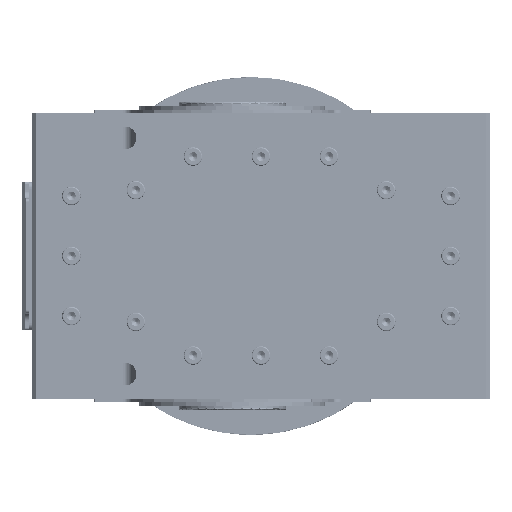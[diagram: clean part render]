
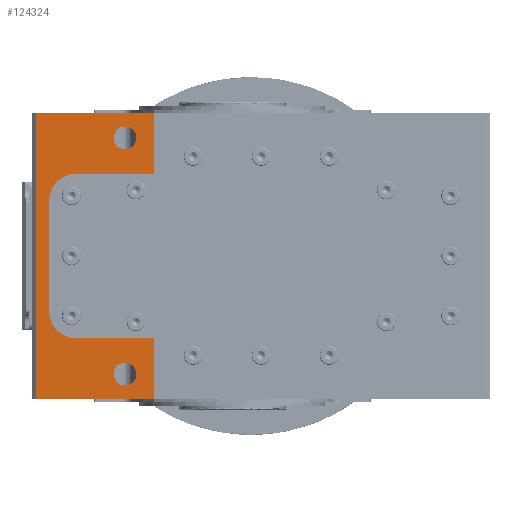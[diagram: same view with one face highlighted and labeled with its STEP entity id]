
A CAD part, left-side view. The second image highlights one B-rep face of the part: STEP entity #124324.
In plain terms, the highlighted planar face has unit normal (-1, 0, 0).
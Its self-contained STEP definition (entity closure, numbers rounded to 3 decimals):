
#11727 = VECTOR ( 'NONE', #189718, 1000. ) ;
#11729 = LINE ( 'NONE', #189930, #11790 ) ;
#11771 = VECTOR ( 'NONE', #189879, 1000. ) ;
#11790 = VECTOR ( 'NONE', #189912, 1000. ) ;
#11802 = LINE ( 'NONE', #189734, #11727 ) ;
#11807 = LINE ( 'NONE', #189955, #11771 ) ;
#26405 = CARTESIAN_POINT ( 'NONE',  ( -112., 109., 38.5 ) ) ;
#26416 = DIRECTION ( 'NONE',  ( 0., 0., 1. ) ) ;
#26437 = DIRECTION ( 'NONE',  ( 1., 0., 0. ) ) ;
#26467 = DIRECTION ( 'NONE',  ( 1., 0., 0. ) ) ;
#26478 = DIRECTION ( 'NONE',  ( 0., 0., 1. ) ) ;
#26482 = CARTESIAN_POINT ( 'NONE',  ( -112., 109., -38.5 ) ) ;
#26508 = CARTESIAN_POINT ( 'NONE',  ( -112., 75., -82.5 ) ) ;
#26509 = DIRECTION ( 'NONE',  ( 1., 0., 0. ) ) ;
#26510 = DIRECTION ( 'NONE',  ( 0., 0., 1. ) ) ;
#26545 = CARTESIAN_POINT ( 'NONE',  ( -112., 140., 57.5 ) ) ;
#26552 = DIRECTION ( 'NONE',  ( 0., -1., 0. ) ) ;
#26645 = DIRECTION ( 'NONE',  ( 0., 0., 1. ) ) ;
#26655 = CARTESIAN_POINT ( 'NONE',  ( -112., 75., 82.5 ) ) ;
#26656 = DIRECTION ( 'NONE',  ( 1., 0., 0. ) ) ;
#26690 = CARTESIAN_POINT ( 'NONE',  ( -112., 128., -100. ) ) ;
#26706 = DIRECTION ( 'NONE',  ( 0., 0., 1. ) ) ;
#26795 = DIRECTION ( 'NONE',  ( 0., 1., 0. ) ) ;
#26817 = CARTESIAN_POINT ( 'NONE',  ( -112., 140., -57.5 ) ) ;
#26824 = DIRECTION ( 'NONE',  ( 0., 0., 1. ) ) ;
#26842 = CARTESIAN_POINT ( 'NONE',  ( -112., 55., -100. ) ) ;
#35977 = LINE ( 'NONE', #26842, #35992 ) ;
#35983 = LINE ( 'NONE', #26690, #36018 ) ;
#35992 = VECTOR ( 'NONE', #26824, 1000. ) ;
#36018 = VECTOR ( 'NONE', #26706, 1000. ) ;
#36064 = LINE ( 'NONE', #26817, #36264 ) ;
#36075 = CIRCLE ( 'NONE', #91976, 8. ) ;
#36264 = VECTOR ( 'NONE', #26795, 1000. ) ;
#36290 = LINE ( 'NONE', #148413, #36306 ) ;
#36306 = VECTOR ( 'NONE', #148451, 1000. ) ;
#38011 = DIRECTION ( 'NONE',  ( 0., 0., 1. ) ) ;
#38048 = CARTESIAN_POINT ( 'NONE',  ( -112., 140., -100. ) ) ;
#38075 = PLANE ( 'NONE',  #94760 ) ;
#38108 = DIRECTION ( 'NONE',  ( -1., 0., 0. ) ) ;
#39618 = CIRCLE ( 'NONE', #91641, 19. ) ;
#39722 = LINE ( 'NONE', #26545, #39726 ) ;
#39726 = VECTOR ( 'NONE', #26552, 1000. ) ;
#39811 = CIRCLE ( 'NONE', #92055, 8. ) ;
#39868 = CIRCLE ( 'NONE', #91984, 19. ) ;
#48570 = ORIENTED_EDGE ( 'NONE', *, *, #120015, .T. ) ;
#48574 = ORIENTED_EDGE ( 'NONE', *, *, #120031, .T. ) ;
#48598 = ORIENTED_EDGE ( 'NONE', *, *, #119810, .T. ) ;
#48636 = ORIENTED_EDGE ( 'NONE', *, *, #119745, .T. ) ;
#48650 = ORIENTED_EDGE ( 'NONE', *, *, #119714, .T. ) ;
#48654 = ORIENTED_EDGE ( 'NONE', *, *, #116756, .T. ) ;
#48660 = ORIENTED_EDGE ( 'NONE', *, *, #119938, .T. ) ;
#48662 = ORIENTED_EDGE ( 'NONE', *, *, #198130, .T. ) ;
#48668 = ORIENTED_EDGE ( 'NONE', *, *, #116758, .T. ) ;
#76523 = VERTEX_POINT ( 'NONE', #193259 ) ;
#76545 = VERTEX_POINT ( 'NONE', #193307 ) ;
#91641 = AXIS2_PLACEMENT_3D ( 'NONE', #26405, #26437, #26416 ) ;
#91976 = AXIS2_PLACEMENT_3D ( 'NONE', #26655, #26656, #26645 ) ;
#91984 = AXIS2_PLACEMENT_3D ( 'NONE', #26482, #26467, #26478 ) ;
#92055 = AXIS2_PLACEMENT_3D ( 'NONE', #26508, #26509, #26510 ) ;
#94760 = AXIS2_PLACEMENT_3D ( 'NONE', #38048, #38108, #38011 ) ;
#99225 = VERTEX_POINT ( 'NONE', #218763 ) ;
#99236 = VERTEX_POINT ( 'NONE', #218830 ) ;
#99253 = VERTEX_POINT ( 'NONE', #218878 ) ;
#99270 = VERTEX_POINT ( 'NONE', #218743 ) ;
#99293 = VERTEX_POINT ( 'NONE', #219086 ) ;
#99320 = VERTEX_POINT ( 'NONE', #219058 ) ;
#99333 = VERTEX_POINT ( 'NONE', #218935 ) ;
#99338 = VERTEX_POINT ( 'NONE', #219127 ) ;
#99372 = VERTEX_POINT ( 'NONE', #219079 ) ;
#99376 = VERTEX_POINT ( 'NONE', #219009 ) ;
#99382 = VERTEX_POINT ( 'NONE', #219310 ) ;
#99390 = VERTEX_POINT ( 'NONE', #219229 ) ;
#116756 = EDGE_CURVE ( 'NONE', #76523, #99270, #11802, .T. ) ;
#116758 = EDGE_CURVE ( 'NONE', #99236, #76545, #11729, .T. ) ;
#116763 = EDGE_CURVE ( 'NONE', #76545, #76523, #11807, .T. ) ;
#119714 = EDGE_CURVE ( 'NONE', #99225, #99338, #39618, .T. ) ;
#119745 = EDGE_CURVE ( 'NONE', #99293, #99333, #39868, .T. ) ;
#119810 = EDGE_CURVE ( 'NONE', #99376, #99382, #39811, .T. ) ;
#119846 = EDGE_CURVE ( 'NONE', #99338, #99253, #39722, .T. ) ;
#119938 = EDGE_CURVE ( 'NONE', #99390, #99372, #36075, .T. ) ;
#119945 = EDGE_CURVE ( 'NONE', #99333, #99225, #35983, .T. ) ;
#120015 = EDGE_CURVE ( 'NONE', #99253, #99320, #35977, .T. ) ;
#120031 = EDGE_CURVE ( 'NONE', #99270, #99293, #36064, .T. ) ;
#120123 = EDGE_CURVE ( 'NONE', #99320, #99236, #36290, .T. ) ;
#121978 = EDGE_LOOP ( 'NONE', ( #239825, #48650, #239881, #48570, #239728, #48668, #239746, #48654, #48574, #48636 ) ) ;
#122156 = EDGE_LOOP ( 'NONE', ( #239915, #48598 ) ) ;
#122233 = EDGE_LOOP ( 'NONE', ( #48662, #48660 ) ) ;
#124324 = ADVANCED_FACE ( 'NONE', ( #259500, #259494, #259587 ), #38075, .T. ) ;
#148413 = CARTESIAN_POINT ( 'NONE',  ( -112., 140., 100. ) ) ;
#148451 = DIRECTION ( 'NONE',  ( 0., 1., 0. ) ) ;
#148964 = AXIS2_PLACEMENT_3D ( 'NONE', #207799, #207811, #207819 ) ;
#149077 = AXIS2_PLACEMENT_3D ( 'NONE', #150320, #150143, #150179 ) ;
#150143 = DIRECTION ( 'NONE',  ( 1., 0., 0. ) ) ;
#150179 = DIRECTION ( 'NONE',  ( 0., 0., 1. ) ) ;
#150320 = CARTESIAN_POINT ( 'NONE',  ( -112., 75., -82.5 ) ) ;
#159438 = CIRCLE ( 'NONE', #148964, 8. ) ;
#159681 = CIRCLE ( 'NONE', #149077, 8. ) ;
#189718 = DIRECTION ( 'NONE',  ( 0., 0., 1. ) ) ;
#189734 = CARTESIAN_POINT ( 'NONE',  ( -112., 55., -100. ) ) ;
#189879 = DIRECTION ( 'NONE',  ( 0., -1., 0. ) ) ;
#189912 = DIRECTION ( 'NONE',  ( 0., 0., -1. ) ) ;
#189930 = CARTESIAN_POINT ( 'NONE',  ( -112., 137., -100. ) ) ;
#189955 = CARTESIAN_POINT ( 'NONE',  ( -112., 140., -100. ) ) ;
#193259 = CARTESIAN_POINT ( 'NONE',  ( -112., 55., -100. ) ) ;
#193307 = CARTESIAN_POINT ( 'NONE',  ( -112., 137., -100. ) ) ;
#198130 = EDGE_CURVE ( 'NONE', #99372, #99390, #159438, .T. ) ;
#198831 = EDGE_CURVE ( 'NONE', #99382, #99376, #159681, .T. ) ;
#207799 = CARTESIAN_POINT ( 'NONE',  ( -112., 75., 82.5 ) ) ;
#207811 = DIRECTION ( 'NONE',  ( 1., 0., 0. ) ) ;
#207819 = DIRECTION ( 'NONE',  ( 0., 0., 1. ) ) ;
#218743 = CARTESIAN_POINT ( 'NONE',  ( -112., 55., -57.5 ) ) ;
#218763 = CARTESIAN_POINT ( 'NONE',  ( -112., 128., 38.5 ) ) ;
#218830 = CARTESIAN_POINT ( 'NONE',  ( -112., 137., 100. ) ) ;
#218878 = CARTESIAN_POINT ( 'NONE',  ( -112., 55., 57.5 ) ) ;
#218935 = CARTESIAN_POINT ( 'NONE',  ( -112., 128., -38.5 ) ) ;
#219009 = CARTESIAN_POINT ( 'NONE',  ( -112., 75., -90.5 ) ) ;
#219058 = CARTESIAN_POINT ( 'NONE',  ( -112., 55., 100. ) ) ;
#219079 = CARTESIAN_POINT ( 'NONE',  ( -112., 75., 90.5 ) ) ;
#219086 = CARTESIAN_POINT ( 'NONE',  ( -112., 109., -57.5 ) ) ;
#219127 = CARTESIAN_POINT ( 'NONE',  ( -112., 109., 57.5 ) ) ;
#219229 = CARTESIAN_POINT ( 'NONE',  ( -112., 75., 74.5 ) ) ;
#219310 = CARTESIAN_POINT ( 'NONE',  ( -112., 75., -74.5 ) ) ;
#239728 = ORIENTED_EDGE ( 'NONE', *, *, #120123, .T. ) ;
#239746 = ORIENTED_EDGE ( 'NONE', *, *, #116763, .T. ) ;
#239825 = ORIENTED_EDGE ( 'NONE', *, *, #119945, .T. ) ;
#239881 = ORIENTED_EDGE ( 'NONE', *, *, #119846, .T. ) ;
#239915 = ORIENTED_EDGE ( 'NONE', *, *, #198831, .T. ) ;
#259494 = FACE_BOUND ( 'NONE', #122233, .T. ) ;
#259500 = FACE_BOUND ( 'NONE', #122156, .T. ) ;
#259587 = FACE_OUTER_BOUND ( 'NONE', #121978, .T. ) ;
